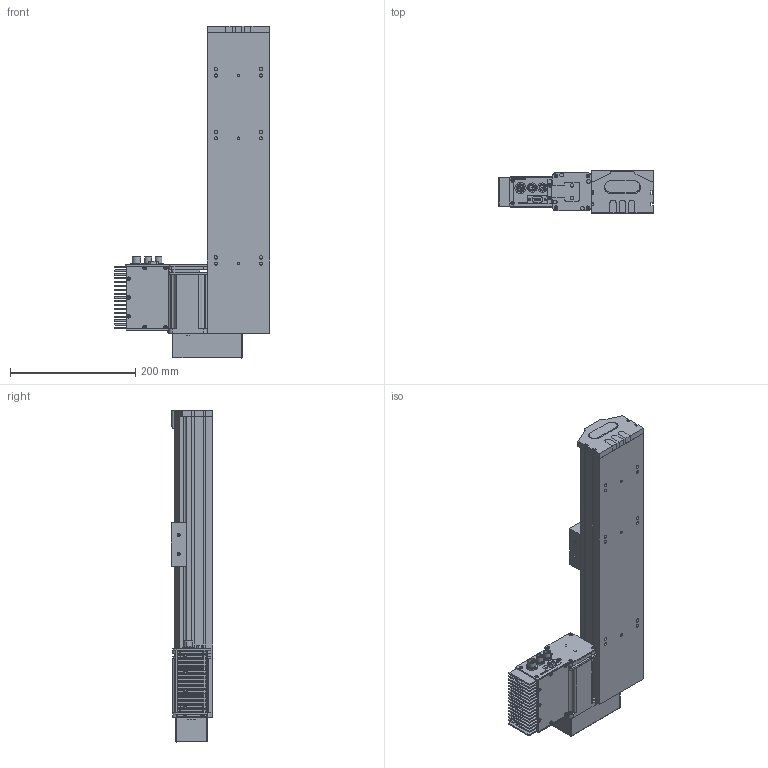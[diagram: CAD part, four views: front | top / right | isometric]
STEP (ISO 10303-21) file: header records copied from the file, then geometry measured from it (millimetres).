
FILE_DESCRIPTION (( 'STEP AP203' ), '1' );
FILE_NAME ('S10 TSN BL S300.STEP', '2012-08-31T14:19:09', ( 'Conseil Régional Haute-Normandie' ), ( 'Conseil Régional Haute-Normandie' ), 'SwSTEP 2.0', 'SolidWorks 2010', '' );
FILE_SCHEMA (( 'CONFIG_CONTROL_DESIGN' ));
Length unit declared in the file: millimetre
Products named in the file (25): Colonnette_3; S10 TSN BL S300; Assem1_7; T_X2_00F4_X0_le contre le moteur_5; BU41 Carte Alimentation P05_3; BU45 Carte d''axe A11_5; Moteur 60BLDC90A_3; Couvercle_3; T_X2_00F4_X0_le fond_3; Connecteur rond D10 3cts_5; Connecteur rond D12 4cts_5; Sub D 9cts 90_X2_00B_X0__3; Radiateur profil_X2_00E9_X0_ 100x25_3; Colonnette ronde_3; T_X2_00F4_X0_le Arri_X2_00E8_X0_re_5; T_X2_00F4_X0_le lat_X2_00E9_X0_rale_5; Vis TF 3 torkx_1_1; axe487; palette tbn; renvoi LH_Default; piece_plastique remplie_Default; embout_modifié; remplir_Default; Pièce2_Default; Vis TF 3 torkx
Assembly tree (55 placements, depth 3):
  S10 TSN BL S300
    renvoi LH_Default
    palette tbn
    Vis TF 3 torkx  x7
    Assem1_7
      Vis TF 3 torkx_1_1  x21
      Moteur 60BLDC90A_3
      BU41 Carte Alimentation P05_3
      T_X2_00F4_X0_le lat_X2_00E9_X0_rale_5  x2
      T_X2_00F4_X0_le fond_3
      Connecteur rond D10 3cts_5  x2
      T_X2_00F4_X0_le Arri_X2_00E8_X0_re_5
      BU45 Carte d''axe A11_5
      T_X2_00F4_X0_le contre le moteur_5
      Sub D 9cts 90_X2_00B_X0__3
      Colonnette ronde_3
      Colonnette_3  x2
      Radiateur profil_X2_00E9_X0_ 100x25_3
      Couvercle_3
      Connecteur rond D12 4cts_5
    axe487
    piece_plastique remplie_Default
      remplir_Default  x3
      Pièce2_Default
      embout_modifié
Bounding box: 248.02 x 66.8 x 529.5 mm (x, y, z)
Volume: 3229447.1 mm3; surface area: 510789.4 mm2
Topology: 53 solids, 53 shells, 1943 faces, 4950 edges, 3226 vertices
Faces by surface type: plane 921, cylinder 859, cone 156, bspline 4, torus 3
Entity records: 37979 total; most frequent: CARTESIAN_POINT 6419, DIRECTION 6155, ORIENTED_EDGE 5608, EDGE_CURVE 2804, AXIS2_PLACEMENT_3D 2251, VERTEX_POINT 1838, VECTOR 1653, LINE 1653
